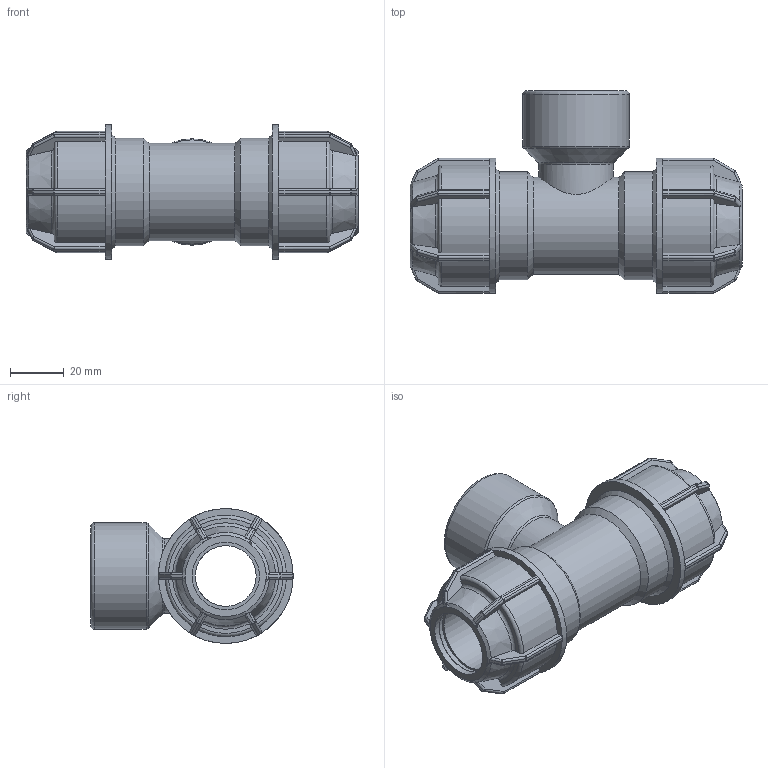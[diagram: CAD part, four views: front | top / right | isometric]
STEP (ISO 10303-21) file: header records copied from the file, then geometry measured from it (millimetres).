
FILE_DESCRIPTION(/* description */ ('PLASSON L.14 TEE FEMALE ADAPTOR (SILVER) 25 x 1" x 25'),/* implementation_level */ '2;1');
FILE_NAME(/* name */ 'C:\Dropbox\KIMPROJECTS-Inventor\99-16-3568-Processing\Silver Fittings\141400\141400025010.ipt.stp',/* time_stamp */ '2018-04-16T11:15:49+03:00',/* author */ ('KIM'),/* organization */ (''),/* preprocessor_version */ 'ST-DEVELOPER v15.6',/* originating_system */ 'Autodesk Inventor 2015',/* authorisation */ '');
FILE_SCHEMA (('AUTOMOTIVE_DESIGN { 1 0 10303 214 3 1 1 }'));
Length unit declared in the file: millimetre
Products named in the file (1): 141400025010
Bounding box: 123 x 75 x 50 mm (x, y, z)
Volume: 112555.3 mm3; surface area: 38034.5 mm2
Topology: 1 solids, 1 shells, 416 faces, 989 edges, 567 vertices
Faces by surface type: plane 196, cylinder 122, sphere 48, torus 31, cone 19
Full cylindrical faces by diameter (mm): 22.5 x2, 25 x4, 27.565 x1, 30.291 x1, 36 x1, 39.378 x1, 40 x2, 50 x2
Entity records: 11984 total; most frequent: CARTESIAN_POINT 3078, DIRECTION 1876, ORIENTED_EDGE 1824, EDGE_CURVE 912, AXIS2_PLACEMENT_3D 758, VERTEX_POINT 540, EDGE_LOOP 450, FACE_OUTER_BOUND 410
